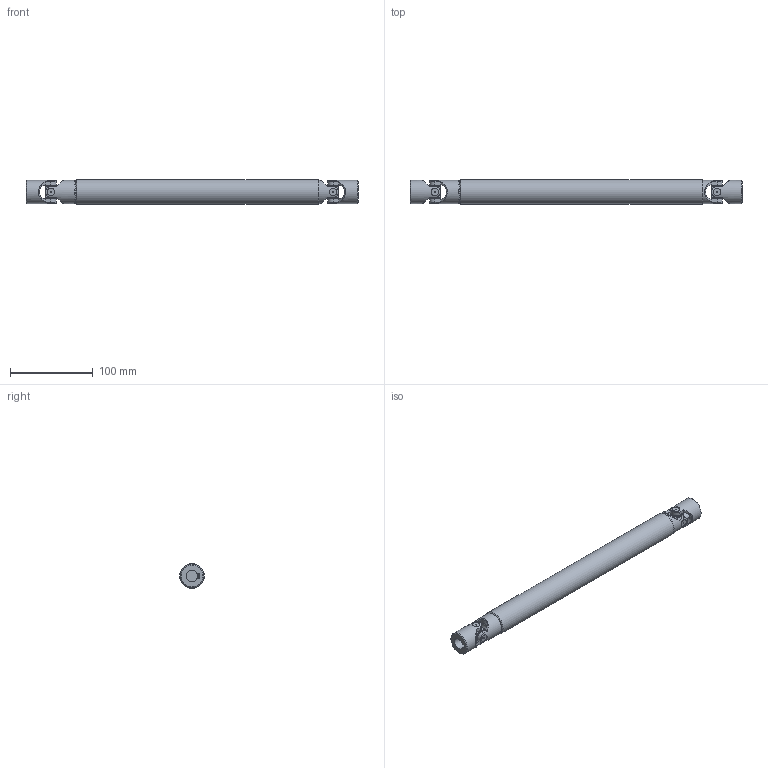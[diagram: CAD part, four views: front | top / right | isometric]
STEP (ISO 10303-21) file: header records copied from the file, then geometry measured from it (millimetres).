
FILE_DESCRIPTION(/* description */ ('EXTENSIBLE TRANSIMISSIONS Series G DIN 808 -2-'),/* implementation_level */ '2;1');
FILE_NAME(/* name */ '\\SRV2016\Societa\Stefano\Disegni 3D\00Catalogo 3D\03Trasmissioni standard GA\!05GA35\!05GA35_SG0A1435.stp',/* time_stamp */ '2022-02-15T11:03:34+01:00',/* author */ ('acquisti'),/* organization */ ('MARIOFERRI'),/* preprocessor_version */ 'ST-DEVELOPER v15.6',/* originating_system */ 'Autodesk Inventor 2015',/* authorisation */ '');
FILE_SCHEMA (('AUTOMOTIVE_DESIGN { 1 0 10303 214 3 1 1 }'));
Length unit declared in the file: millimetre
Products named in the file (5): 05G SFE; !05GA35 LAI; !05GA35 LCI; 05G MOC; !05GA35_SG0A1435
Assembly tree (6 placements, depth 2):
  !05GA35_SG0A1435
    05G SFE  x2
    !05GA35 LAI
    !05GA35 LCI
    05G MOC  x2
Bounding box: 400 x 29.5 x 29.5 mm (x, y, z)
Volume: 172823.2 mm3; surface area: 83749.1 mm2
Topology: 6 solids, 6 shells, 204 faces, 515 edges, 347 vertices
Faces by surface type: plane 106, cylinder 69, cone 25, torus 4
Full cylindrical faces by diameter (mm): 1.5 x8, 9 x8, 12.5 x8, 14 x1, 14.5 x2, 24 x1, 28 x4, 29.5 x1
Entity records: 5255 total; most frequent: CARTESIAN_POINT 1529, DIRECTION 751, ORIENTED_EDGE 724, EDGE_CURVE 362, AXIS2_PLACEMENT_3D 299, VERTEX_POINT 262, EDGE_LOOP 212, FACE_OUTER_BOUND 158
